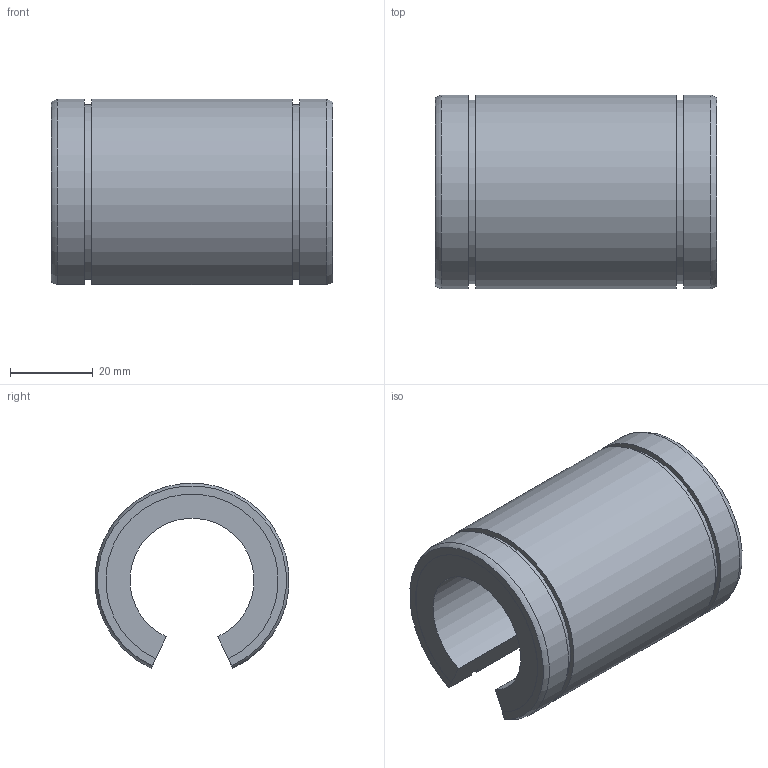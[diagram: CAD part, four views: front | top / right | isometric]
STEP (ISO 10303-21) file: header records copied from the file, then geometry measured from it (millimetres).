
FILE_DESCRIPTION((''),'2;1');
FILE_NAME('D:\製品 (図面)\カタログ用3D\リニアベアリング関連\STEP形式\LE-OP\LE30-OP.stp','2010-06-03T09:10:05',('Tsuchiya'),(''),'Autodesk Inventor 10','Autodesk Inventor 10','');
FILE_SCHEMA(('AUTOMOTIVE_DESIGN { 1 0 10303 214 1 1 1 1 }'));
Length unit declared in the file: millimetre
Products named in the file (1): LE30-OP
Bounding box: 68 x 46.83 x 44.75 mm (x, y, z)
Volume: 59526.7 mm3; surface area: 17576.8 mm2
Topology: 1 solids, 1 shells, 20 faces, 54 edges, 36 vertices
Faces by surface type: plane 10, cylinder 8, torus 2
Entity records: 693 total; most frequent: CARTESIAN_POINT 153, DIRECTION 110, ORIENTED_EDGE 108, EDGE_CURVE 54, AXIS2_PLACEMENT_3D 39, VERTEX_POINT 36, VECTOR 32, LINE 32
